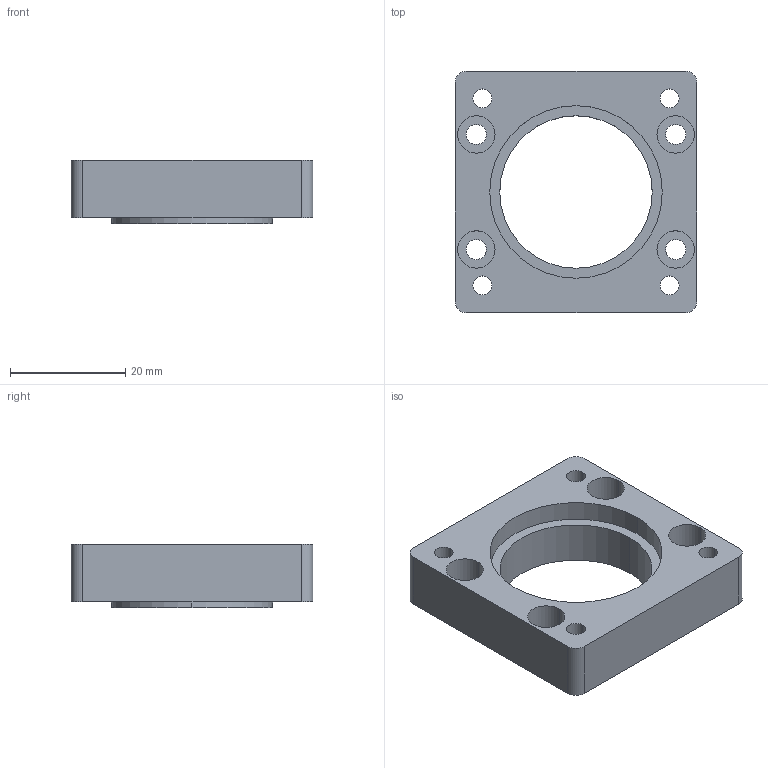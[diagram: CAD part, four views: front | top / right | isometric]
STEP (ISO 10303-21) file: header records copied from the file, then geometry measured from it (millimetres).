
FILE_DESCRIPTION (( 'STEP AP214' ), '1' );
FILE_NAME ('KK-60-F1 安川100W电机板(安川=台达 汇川 三菱 富士 禾川).STEP', '2021-05-29T07:06:04', ( '' ), ( '' ), 'SwSTEP 2.0', 'SolidWorks 2017', '' );
FILE_SCHEMA (( 'AUTOMOTIVE_DESIGN' ));
Length unit declared in the file: millimetre
Products named in the file (1): KK-60-F1 安川100W电机板(安川=台达 汇川 三菱 富士 禾川)
Bounding box: 42 x 42 x 11 mm (x, y, z)
Volume: 10412.6 mm3; surface area: 6003.5 mm2
Topology: 1 solids, 1 shells, 46 faces, 114 edges, 76 vertices
Faces by surface type: cylinder 34, plane 12
Entity records: 1476 total; most frequent: DIRECTION 276, CARTESIAN_POINT 237, ORIENTED_EDGE 228, AXIS2_PLACEMENT_3D 115, EDGE_CURVE 114, VERTEX_POINT 76, EDGE_LOOP 70, CIRCLE 68
